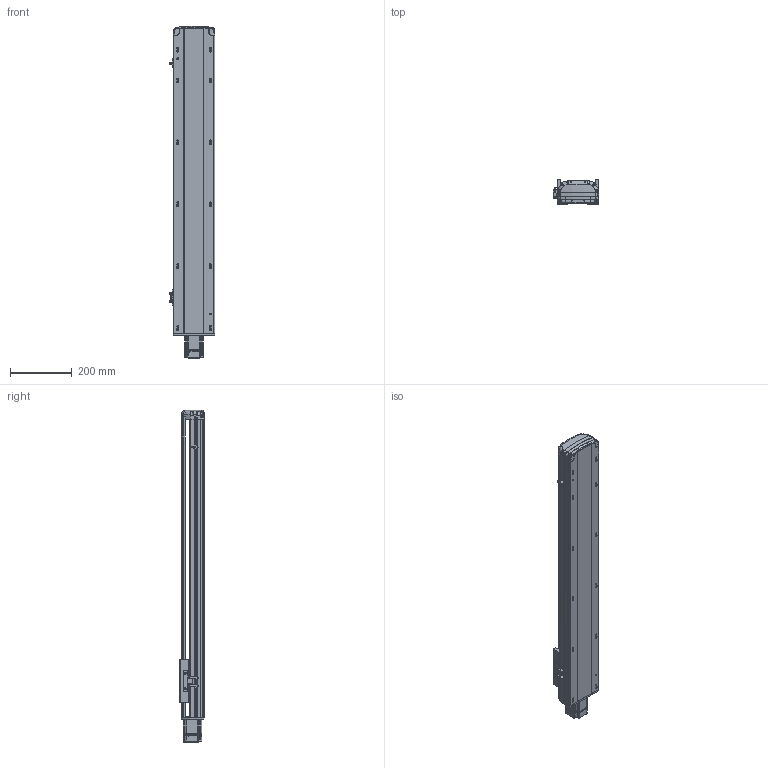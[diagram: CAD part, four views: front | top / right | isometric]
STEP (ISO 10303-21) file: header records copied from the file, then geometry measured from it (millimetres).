
FILE_DESCRIPTION (( 'STEP AP214' ), '1' );
FILE_NAME ('RTH14-XX-750-E-M20-C4.STEP', '2025-10-24T09:11:43', ( 'Microsoft' ), ( 'Microsoft' ), 'SwSTEP 2.0', 'SolidWorks 2018', '' );
FILE_SCHEMA (( 'AUTOMOTIVE_DESIGN' ));
Length unit declared in the file: millimetre
Products named in the file (9): N_MSMD022P1AA_200W^RTH14-XX-XX-E-M20-C4; N_RTH14-GY-001P^RTH14-XX-XX-E-M20-C4; N_RTH13-L-012感应片（外置）^RTH14-XX-XX-E-M20-C4; N_RTH14-E-011P菁釱^RTH14-XX-XX-E-M20-C4; N_RTH14-E-007P奻裔^RTH14-XX-XX-E-M20-C4; N_RTH14-R-004-SFSR16賑釱^RTH14-XX-XX-E-M20-C4; N_OMRON EE-SX672 传感器^RTH14-XX-XX-E-M20-C4; N_RTH13-E-008萇儂耜猾裔^RTH14-XX-XX-E-M20-C4; RTH14-XX-750-E-M20-C4
Assembly tree (10 placements, depth 2):
  RTH14-XX-750-E-M20-C4
    N_RTH14-E-011P菁釱^RTH14-XX-XX-E-M20-C4
    N_RTH14-E-007P奻裔^RTH14-XX-XX-E-M20-C4
    N_MSMD022P1AA_200W^RTH14-XX-XX-E-M20-C4
    N_RTH13-L-012感应片（外置）^RTH14-XX-XX-E-M20-C4
    N_OMRON EE-SX672 传感器^RTH14-XX-XX-E-M20-C4  x3
    N_RTH13-E-008萇儂耜猾裔^RTH14-XX-XX-E-M20-C4
    N_RTH14-R-004-SFSR16賑釱^RTH14-XX-XX-E-M20-C4
    N_RTH14-GY-001P^RTH14-XX-XX-E-M20-C4
Bounding box: 148.5 x 78.03 x 1072.49 mm (x, y, z)
Volume: 4424573.1 mm3; surface area: 974911.6 mm2
Topology: 10 solids, 10 shells, 1881 faces, 5296 edges, 3480 vertices
Faces by surface type: plane 979, cylinder 512, bspline 341, cone 45, torus 4
Entity records: 57742 total; most frequent: CARTESIAN_POINT 22986, ORIENTED_EDGE 7660, DIRECTION 6205, EDGE_CURVE 3830, VERTEX_POINT 2516, LINE 2181, VECTOR 2181, AXIS2_PLACEMENT_3D 2012
